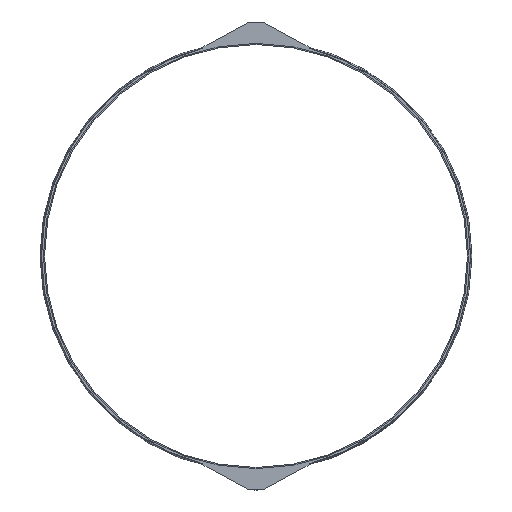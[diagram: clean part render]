
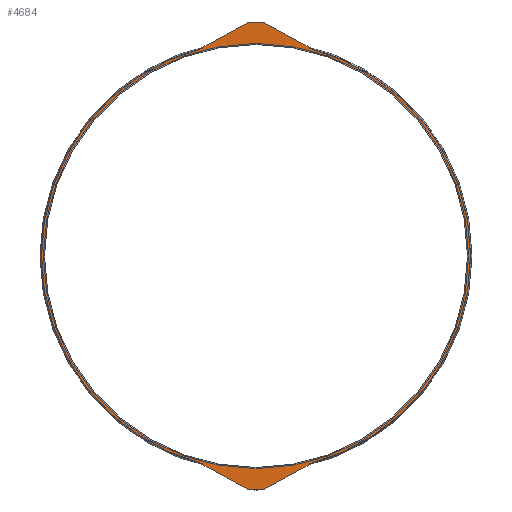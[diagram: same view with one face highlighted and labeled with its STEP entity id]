
A CAD part, left-side view. The second image highlights one B-rep face of the part: STEP entity #4684.
In plain terms, the highlighted planar face has unit normal (-1, 0, 0).
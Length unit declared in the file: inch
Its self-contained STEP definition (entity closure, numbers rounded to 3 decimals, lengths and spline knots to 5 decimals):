
#134=FACE_BOUND('',#814,.T.);
#300=PLANE('',#5095);
#539=FACE_OUTER_BOUND('',#813,.T.);
#813=EDGE_LOOP('',(#4140,#4141,#4142,#4143,#4144,#4145,#4146,#4147,#4148,
#4149,#4150,#4151,#4152,#4153,#4154,#4155,#4156,#4157,#4158,#4159));
#814=EDGE_LOOP('',(#4160,#4161));
#973=LINE('',#6759,#1422);
#977=LINE('',#6771,#1426);
#981=LINE('',#6783,#1430);
#985=LINE('',#6795,#1434);
#987=LINE('',#6800,#1436);
#1206=LINE('',#7611,#1655);
#1210=LINE('',#7623,#1659);
#1214=LINE('',#7635,#1663);
#1218=LINE('',#7645,#1667);
#1221=LINE('',#7651,#1670);
#1422=VECTOR('',#5479,0.3937);
#1426=VECTOR('',#5491,0.3937);
#1430=VECTOR('',#5503,0.3937);
#1434=VECTOR('',#5515,0.3937);
#1436=VECTOR('',#5519,0.3937);
#1655=VECTOR('',#6082,0.3937);
#1659=VECTOR('',#6094,0.3937);
#1663=VECTOR('',#6106,0.3937);
#1667=VECTOR('',#6118,0.3937);
#1670=VECTOR('',#6123,0.3937);
#1739=CIRCLE('',#4808,0.063);
#1741=CIRCLE('',#4812,0.125);
#1743=CIRCLE('',#4816,0.125);
#1745=CIRCLE('',#4820,0.063);
#1750=CIRCLE('',#4829,72.625);
#1803=CIRCLE('',#4993,0.063);
#1805=CIRCLE('',#4997,0.125);
#1807=CIRCLE('',#5001,0.125);
#1809=CIRCLE('',#5005,0.063);
#1811=CIRCLE('',#5011,72.625);
#1863=CIRCLE('',#5093,72.);
#1864=CIRCLE('',#5094,72.);
#1988=VERTEX_POINT('',#6749);
#1989=VERTEX_POINT('',#6751);
#1991=VERTEX_POINT('',#6757);
#1993=VERTEX_POINT('',#6763);
#1995=VERTEX_POINT('',#6769);
#1997=VERTEX_POINT('',#6775);
#1999=VERTEX_POINT('',#6781);
#2001=VERTEX_POINT('',#6787);
#2003=VERTEX_POINT('',#6793);
#2005=VERTEX_POINT('',#6799);
#2014=VERTEX_POINT('',#6821);
#2206=VERTEX_POINT('',#7602);
#2207=VERTEX_POINT('',#7604);
#2209=VERTEX_POINT('',#7610);
#2211=VERTEX_POINT('',#7616);
#2213=VERTEX_POINT('',#7622);
#2215=VERTEX_POINT('',#7628);
#2217=VERTEX_POINT('',#7634);
#2219=VERTEX_POINT('',#7640);
#2221=VERTEX_POINT('',#7649);
#2285=VERTEX_POINT('',#7841);
#2286=VERTEX_POINT('',#7843);
#2468=EDGE_CURVE('',#1988,#1989,#1739,.T.);
#2472=EDGE_CURVE('',#1991,#1988,#973,.T.);
#2475=EDGE_CURVE('',#1993,#1991,#1741,.T.);
#2478=EDGE_CURVE('',#1995,#1993,#977,.T.);
#2481=EDGE_CURVE('',#1997,#1995,#1743,.T.);
#2484=EDGE_CURVE('',#1999,#1997,#981,.T.);
#2487=EDGE_CURVE('',#2001,#1999,#1745,.T.);
#2490=EDGE_CURVE('',#2003,#2001,#985,.T.);
#2492=EDGE_CURVE('',#1989,#2005,#987,.T.);
#2504=EDGE_CURVE('',#2014,#2003,#1750,.T.);
#2790=EDGE_CURVE('',#2207,#2206,#1803,.T.);
#2793=EDGE_CURVE('',#2209,#2207,#1206,.T.);
#2796=EDGE_CURVE('',#2211,#2209,#1805,.T.);
#2799=EDGE_CURVE('',#2213,#2211,#1210,.T.);
#2802=EDGE_CURVE('',#2215,#2213,#1807,.T.);
#2805=EDGE_CURVE('',#2217,#2215,#1214,.T.);
#2808=EDGE_CURVE('',#2219,#2217,#1809,.T.);
#2811=EDGE_CURVE('',#2014,#2219,#1218,.T.);
#2814=EDGE_CURVE('',#2206,#2221,#1221,.T.);
#2819=EDGE_CURVE('',#2005,#2221,#1811,.T.);
#2910=EDGE_CURVE('',#2286,#2285,#1863,.T.);
#2911=EDGE_CURVE('',#2285,#2286,#1864,.T.);
#4140=ORIENTED_EDGE('',*,*,#2504,.F.);
#4141=ORIENTED_EDGE('',*,*,#2811,.T.);
#4142=ORIENTED_EDGE('',*,*,#2808,.T.);
#4143=ORIENTED_EDGE('',*,*,#2805,.T.);
#4144=ORIENTED_EDGE('',*,*,#2802,.T.);
#4145=ORIENTED_EDGE('',*,*,#2799,.T.);
#4146=ORIENTED_EDGE('',*,*,#2796,.T.);
#4147=ORIENTED_EDGE('',*,*,#2793,.T.);
#4148=ORIENTED_EDGE('',*,*,#2790,.T.);
#4149=ORIENTED_EDGE('',*,*,#2814,.T.);
#4150=ORIENTED_EDGE('',*,*,#2819,.F.);
#4151=ORIENTED_EDGE('',*,*,#2492,.F.);
#4152=ORIENTED_EDGE('',*,*,#2468,.F.);
#4153=ORIENTED_EDGE('',*,*,#2472,.F.);
#4154=ORIENTED_EDGE('',*,*,#2475,.F.);
#4155=ORIENTED_EDGE('',*,*,#2478,.F.);
#4156=ORIENTED_EDGE('',*,*,#2481,.F.);
#4157=ORIENTED_EDGE('',*,*,#2484,.F.);
#4158=ORIENTED_EDGE('',*,*,#2487,.F.);
#4159=ORIENTED_EDGE('',*,*,#2490,.F.);
#4160=ORIENTED_EDGE('',*,*,#2910,.T.);
#4161=ORIENTED_EDGE('',*,*,#2911,.T.);
#4684=ADVANCED_FACE('',(#539,#134),#300,.T.);
#4808=AXIS2_PLACEMENT_3D('',#6752,#5472,#5473);
#4812=AXIS2_PLACEMENT_3D('',#6765,#5485,#5486);
#4816=AXIS2_PLACEMENT_3D('',#6777,#5497,#5498);
#4820=AXIS2_PLACEMENT_3D('',#6789,#5509,#5510);
#4829=AXIS2_PLACEMENT_3D('',#6823,#5539,#5540);
#4993=AXIS2_PLACEMENT_3D('',#7605,#6076,#6077);
#4997=AXIS2_PLACEMENT_3D('',#7617,#6088,#6089);
#5001=AXIS2_PLACEMENT_3D('',#7629,#6100,#6101);
#5005=AXIS2_PLACEMENT_3D('',#7641,#6112,#6113);
#5011=AXIS2_PLACEMENT_3D('',#7661,#6133,#6134);
#5093=AXIS2_PLACEMENT_3D('',#7844,#6336,#6337);
#5094=AXIS2_PLACEMENT_3D('',#7845,#6338,#6339);
#5095=AXIS2_PLACEMENT_3D('',#7846,#6340,#6341);
#5472=DIRECTION('center_axis',(1.,0.,0.));
#5473=DIRECTION('ref_axis',(0.,-1.,0.));
#5479=DIRECTION('',(0.,0.881,0.474));
#5485=DIRECTION('center_axis',(1.,0.,0.));
#5486=DIRECTION('ref_axis',(0.,-0.474,0.881));
#5491=DIRECTION('',(0.,1.,0.));
#5497=DIRECTION('center_axis',(1.,0.,0.));
#5498=DIRECTION('ref_axis',(0.,0.,1.));
#5503=DIRECTION('',(0.,0.881,-0.474));
#5509=DIRECTION('center_axis',(1.,0.,0.));
#5510=DIRECTION('ref_axis',(0.,0.474,0.881));
#5515=DIRECTION('',(0.,0.,-1.));
#5519=DIRECTION('',(0.,0.,1.));
#5539=DIRECTION('center_axis',(1.,0.,0.));
#5540=DIRECTION('ref_axis',(0.,0.,-1.));
#6076=DIRECTION('center_axis',(-1.,0.,0.));
#6077=DIRECTION('ref_axis',(0.,-1.,0.));
#6082=DIRECTION('',(0.,0.881,-0.474));
#6088=DIRECTION('center_axis',(-1.,0.,0.));
#6089=DIRECTION('ref_axis',(0.,-0.474,-0.881));
#6094=DIRECTION('',(0.,1.,0.));
#6100=DIRECTION('center_axis',(-1.,0.,0.));
#6101=DIRECTION('ref_axis',(0.,0.,-1.));
#6106=DIRECTION('',(0.,0.881,0.474));
#6112=DIRECTION('center_axis',(-1.,0.,0.));
#6113=DIRECTION('ref_axis',(0.,0.474,-0.881));
#6118=DIRECTION('',(0.,0.,1.));
#6123=DIRECTION('',(0.,0.,-1.));
#6133=DIRECTION('center_axis',(1.,0.,0.));
#6134=DIRECTION('ref_axis',(0.,0.,-1.));
#6336=DIRECTION('center_axis',(1.,0.,0.));
#6337=DIRECTION('ref_axis',(0.,0.,-1.));
#6338=DIRECTION('center_axis',(1.,0.,0.));
#6339=DIRECTION('ref_axis',(0.,0.,-1.));
#6340=DIRECTION('center_axis',(-1.,0.,0.));
#6341=DIRECTION('ref_axis',(0.,0.,1.));
#6749=CARTESIAN_POINT('',(-7.5,17.96684,-70.75185));
#6751=CARTESIAN_POINT('',(-7.5,18.,-70.69636));
#6752=CARTESIAN_POINT('Origin',(-7.5,17.937,-70.69636));
#6757=CARTESIAN_POINT('',(-7.5,2.42773,-79.11009));
#6759=CARTESIAN_POINT('',(-7.5,2.42773,-79.11009));
#6763=CARTESIAN_POINT('',(-7.5,2.36852,-79.125));
#6765=CARTESIAN_POINT('Origin',(-7.5,2.36852,-79.));
#6769=CARTESIAN_POINT('',(-7.5,-2.36852,-79.125));
#6771=CARTESIAN_POINT('',(-7.5,0.,-79.125));
#6775=CARTESIAN_POINT('',(-7.5,-2.42773,-79.11009));
#6777=CARTESIAN_POINT('Origin',(-7.5,-2.36852,-79.));
#6781=CARTESIAN_POINT('',(-7.5,-17.96684,-70.75185));
#6783=CARTESIAN_POINT('',(-7.5,-17.96684,-70.75185));
#6787=CARTESIAN_POINT('',(-7.5,-18.,-70.69636));
#6789=CARTESIAN_POINT('Origin',(-7.5,-17.937,-70.69636));
#6793=CARTESIAN_POINT('',(-7.5,-18.,-70.35901));
#6795=CARTESIAN_POINT('',(-7.5,-18.,-70.35901));
#6799=CARTESIAN_POINT('',(-7.5,18.,-70.35901));
#6800=CARTESIAN_POINT('',(-7.5,18.,-70.69636));
#6821=CARTESIAN_POINT('',(-7.5,-18.,70.35901));
#6823=CARTESIAN_POINT('Origin',(-7.5,0.,0.));
#7602=CARTESIAN_POINT('',(-7.5,18.,70.69636));
#7604=CARTESIAN_POINT('',(-7.5,17.96684,70.75185));
#7605=CARTESIAN_POINT('Origin',(-7.5,17.937,70.69636));
#7610=CARTESIAN_POINT('',(-7.5,2.42773,79.11009));
#7611=CARTESIAN_POINT('',(-7.5,2.42773,79.11009));
#7616=CARTESIAN_POINT('',(-7.5,2.36852,79.125));
#7617=CARTESIAN_POINT('Origin',(-7.5,2.36852,79.));
#7622=CARTESIAN_POINT('',(-7.5,-2.36852,79.125));
#7623=CARTESIAN_POINT('',(-7.5,0.,79.125));
#7628=CARTESIAN_POINT('',(-7.5,-2.42773,79.11009));
#7629=CARTESIAN_POINT('Origin',(-7.5,-2.36852,79.));
#7634=CARTESIAN_POINT('',(-7.5,-17.96684,70.75185));
#7635=CARTESIAN_POINT('',(-7.5,-17.96684,70.75185));
#7640=CARTESIAN_POINT('',(-7.5,-18.,70.69636));
#7641=CARTESIAN_POINT('Origin',(-7.5,-17.937,70.69636));
#7645=CARTESIAN_POINT('',(-7.5,-18.,70.35901));
#7649=CARTESIAN_POINT('',(-7.5,18.,70.35901));
#7651=CARTESIAN_POINT('',(-7.5,18.,70.69636));
#7661=CARTESIAN_POINT('Origin',(-7.5,0.,0.));
#7841=CARTESIAN_POINT('',(-7.5,-72.,0.));
#7843=CARTESIAN_POINT('',(-7.5,72.,0.));
#7844=CARTESIAN_POINT('Origin',(-7.5,0.,0.));
#7845=CARTESIAN_POINT('Origin',(-7.5,0.,0.));
#7846=CARTESIAN_POINT('Origin',(-7.5,72.625,0.));
